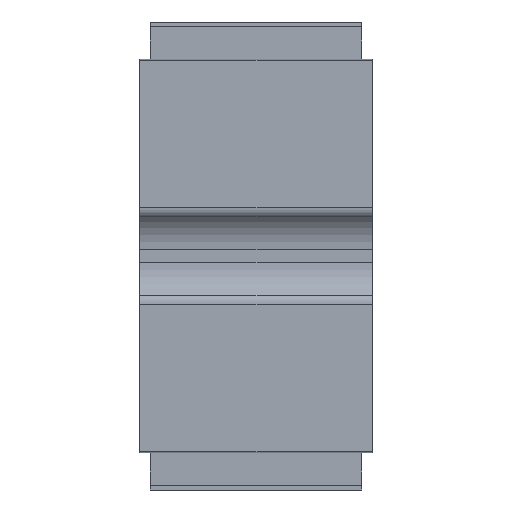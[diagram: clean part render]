
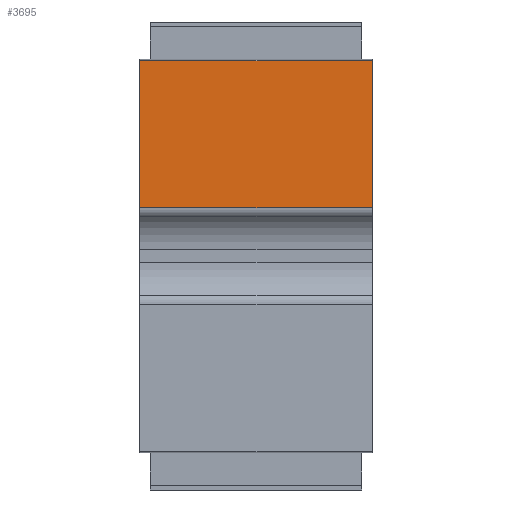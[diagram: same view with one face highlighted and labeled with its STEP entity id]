
A CAD part, front view. The second image highlights one B-rep face of the part: STEP entity #3695.
In plain terms, the highlighted planar face has unit normal (0, -1, 0) as drawn and (0, 1, 0) by its records, which use the part's own axes.
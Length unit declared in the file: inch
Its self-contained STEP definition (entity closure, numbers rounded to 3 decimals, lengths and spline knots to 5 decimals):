
#201 = VERTEX_POINT ( 'NONE', #809 ) ;
#426 = CARTESIAN_POINT ( 'NONE',  ( -0.08665, 0.009, 0.04644 ) ) ;
#518 = DIRECTION ( 'NONE',  ( 0., 0., 1. ) ) ;
#785 = EDGE_CURVE ( 'NONE', #201, #1228, #3251, .T. ) ;
#809 = CARTESIAN_POINT ( 'NONE',  ( -0.023, 0.009, -0.05356 ) ) ;
#937 = DIRECTION ( 'NONE',  ( 0., 1., 0. ) ) ;
#1071 = LINE ( 'NONE', #426, #3479 ) ;
#1209 = VECTOR ( 'NONE', #3287, 39.37008 ) ;
#1228 = VERTEX_POINT ( 'NONE', #5278 ) ;
#1886 = EDGE_CURVE ( 'NONE', #201, #5495, #4973, .T. ) ;
#2252 = CARTESIAN_POINT ( 'NONE',  ( -0.08665, 0.009, -0.05356 ) ) ;
#2438 = CARTESIAN_POINT ( 'NONE',  ( 0., 0.009, 0. ) ) ;
#2833 = ORIENTED_EDGE ( 'NONE', *, *, #3733, .T. ) ;
#2945 = DIRECTION ( 'NONE',  ( 0., 0., 1. ) ) ;
#3056 = VERTEX_POINT ( 'NONE', #4799 ) ;
#3251 = LINE ( 'NONE', #2252, #1209 ) ;
#3287 = DIRECTION ( 'NONE',  ( -1., 0., 0. ) ) ;
#3479 = VECTOR ( 'NONE', #5379, 39.37008 ) ;
#3499 = VECTOR ( 'NONE', #518, 39.37008 ) ;
#3695 = ADVANCED_FACE ( 'NONE', ( #4389 ), #5008, .T. ) ;
#3717 = DIRECTION ( 'NONE',  ( 0., 0., 1. ) ) ;
#3733 = EDGE_CURVE ( 'NONE', #1228, #3056, #5490, .T. ) ;
#3886 = ORIENTED_EDGE ( 'NONE', *, *, #1886, .F. ) ;
#4155 = EDGE_CURVE ( 'NONE', #3056, #5495, #1071, .T. ) ;
#4389 = FACE_OUTER_BOUND ( 'NONE', #5936, .T. ) ;
#4479 = CARTESIAN_POINT ( 'NONE',  ( -0.023, 0.009, 0.04644 ) ) ;
#4799 = CARTESIAN_POINT ( 'NONE',  ( -0.08615, 0.009, 0.04644 ) ) ;
#4973 = LINE ( 'NONE', #5158, #5326 ) ;
#5008 = PLANE ( 'NONE',  #6271 ) ;
#5158 = CARTESIAN_POINT ( 'NONE',  ( -0.023, 0.009, -0.05356 ) ) ;
#5278 = CARTESIAN_POINT ( 'NONE',  ( -0.08615, 0.009, -0.05356 ) ) ;
#5326 = VECTOR ( 'NONE', #3717, 39.37008 ) ;
#5379 = DIRECTION ( 'NONE',  ( 1., 0., 0. ) ) ;
#5490 = LINE ( 'NONE', #6329, #3499 ) ;
#5495 = VERTEX_POINT ( 'NONE', #4479 ) ;
#5510 = ORIENTED_EDGE ( 'NONE', *, *, #785, .T. ) ;
#5936 = EDGE_LOOP ( 'NONE', ( #2833, #6378, #3886, #5510 ) ) ;
#6271 = AXIS2_PLACEMENT_3D ( 'NONE', #2438, #937, #2945 ) ;
#6329 = CARTESIAN_POINT ( 'NONE',  ( -0.08615, 0.009, -0.05356 ) ) ;
#6378 = ORIENTED_EDGE ( 'NONE', *, *, #4155, .T. ) ;
